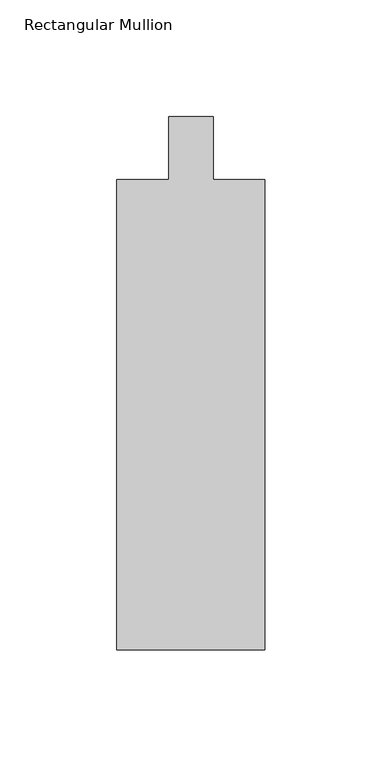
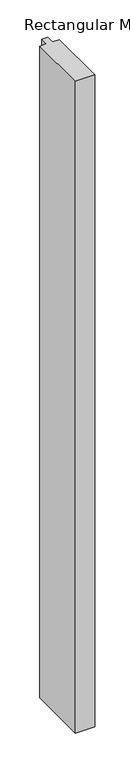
"""IFC4 building model written with IfcOpenShell, lengths in millimetres: member geometry."""

import ifcopenshell
import ifcopenshell.guid

model = None  # the IFC model being written
_history = None  # IfcOwnerHistory: only IFC2X3 demands one
_inside = {}  # id of a spatial element -> (the spatial element, [elements in it])
_under = {}  # id of a project, library or spatial element -> (it, [spatial elements below it])
_declared = {}  # id of a project -> (the project, [libraries it declares])
_typed = {}  # id of a type object -> (the type object, [elements of that type])
_made_of = {}  # id of a material, layer set ... -> (it, [elements and type objects made of it])


def new_model(schema):
    """Start an empty IFC model of exactly this schema.

    Asked for "IFC4X3", IfcOpenShell would pick the latest addendum, in which some entities
    have other attributes; the version numbers below select the first issue.
    IFC2X3 requires an IfcOwnerHistory on every rooted entity: one is made here for all.
    """
    global model, _history
    if schema == "IFC4X3":
        model = ifcopenshell.file(schema_version=(4, 3, 0, 0))
    else:
        model = ifcopenshell.file(schema=schema)
    _inside.clear()
    _under.clear()
    _declared.clear()
    _typed.clear()
    _made_of.clear()
    _history = None
    if model.schema == "IFC2X3":
        org = make("IfcOrganization", Name="unknown")
        user = make(
            "IfcPersonAndOrganization",
            ThePerson=make("IfcPerson", FamilyName="unknown"),
            TheOrganization=org,
        )
        app = make(
            "IfcApplication",
            ApplicationDeveloper=org,
            Version="unknown",
            ApplicationFullName="unknown",
            ApplicationIdentifier="unknown",
        )
        _history = make(
            "IfcOwnerHistory",
            OwningUser=user,
            OwningApplication=app,
            ChangeAction="ADDED",
            CreationDate=0,
        )
    return model


def make(cls, **values):
    """One entity of the class cls with the attributes given. An attribute that is None is left unset."""
    return model.create_entity(
        cls, **{name: value for name, value in values.items() if value is not None}
    )


def rooted(cls, **values):
    """An entity with a GlobalId (a new one), such as an element, a storey or a relation."""
    return make(cls, GlobalId=ifcopenshell.guid.new(), OwnerHistory=_history, **values)


def si_unit(unit_type, name, prefix=None):
    """IfcSIUnit, for example si_unit("LENGTHUNIT", "METRE", prefix="MILLI")."""
    return make("IfcSIUnit", UnitType=unit_type, Prefix=prefix, Name=name)


def assignment(units):
    """IfcUnitAssignment: the units of a project."""
    return None if units is None else make("IfcUnitAssignment", Units=units)


def point(xyz):
    """IfcCartesianPoint."""
    return None if xyz is None else make("IfcCartesianPoint", Coordinates=xyz)


def direction(xyz):
    """IfcDirection."""
    return None if xyz is None else make("IfcDirection", DirectionRatios=xyz)


def frame(location, z_axis=None, x_axis=None):
    """IfcAxis2Placement3D, a coordinate frame: its origin and axes. An axis left out is left unset."""
    return make(
        "IfcAxis2Placement3D",
        Location=point(location),
        Axis=direction(z_axis),
        RefDirection=direction(x_axis),
    )


def origin():
    """The frame at (0, 0, 0) with its axes left unset."""
    return frame((0.0, 0.0, 0.0))


def place(relative_to, where):
    """IfcLocalPlacement: puts the frame where relative to a parent placement (None: the world)."""
    return make(
        "IfcLocalPlacement", PlacementRelTo=relative_to, RelativePlacement=where
    )


def context(
    kind, dimensions, precision=None, world=None, true_north=None, identifier=None
):
    """IfcGeometricRepresentationContext, for example the 3D "Model" context."""
    return make(
        "IfcGeometricRepresentationContext",
        ContextIdentifier=identifier,
        ContextType=kind,
        CoordinateSpaceDimension=dimensions,
        Precision=precision,
        WorldCoordinateSystem=world,
        TrueNorth=true_north,
    )


def project(units=None, contexts=None):
    """IfcProject with its units and contexts."""
    return rooted(
        "IfcProject",
        Name="project",
        RepresentationContexts=contexts,
        UnitsInContext=assignment(units),
    )


def spatial(cls, under=None, at=None, **own):
    """A site, building, storey or space (cls), placed at a placement, below another one or the project."""
    s = rooted(cls, ObjectPlacement=at, **own)
    if under is not None:
        _under.setdefault(under.id(), (under, []))[1].append(s)
    return s


def polyline(points):
    """IfcPolyline through the points."""
    return make("IfcPolyline", Points=[point(p) for p in points])


def outline(outer, holes=None, kind="AREA"):
    """IfcArbitraryClosedProfileDef: a profile drawn as a closed curve; with holes, ...WithVoids."""
    if holes is None:
        return make("IfcArbitraryClosedProfileDef", ProfileType=kind, OuterCurve=outer)
    return make(
        "IfcArbitraryProfileDefWithVoids",
        ProfileType=kind,
        OuterCurve=outer,
        InnerCurves=holes,
    )


def extrude(swept, where, along, depth):
    """IfcExtrudedAreaSolid: the profile swept, set in the frame where, extruded along a direction by depth."""
    return make(
        "IfcExtrudedAreaSolid",
        SweptArea=swept,
        Position=where,
        ExtrudedDirection=direction(along),
        Depth=depth,
    )


def shape(context_of_items, identifier, shape_type, items):
    """IfcShapeRepresentation: the items that make up one representation, for example the "Body"."""
    return make(
        "IfcShapeRepresentation",
        ContextOfItems=context_of_items,
        RepresentationIdentifier=identifier,
        RepresentationType=shape_type,
        Items=items,
    )


def source(mapping_origin, context_of_items, identifier, shape_type, items):
    """IfcRepresentationMap: a shape defined once, which mapped items show again and again."""
    return make(
        "IfcRepresentationMap",
        MappingOrigin=mapping_origin,
        MappedRepresentation=shape(context_of_items, identifier, shape_type, items),
    )


def transform(
    local_origin,
    x_axis=None,
    y_axis=None,
    z_axis=None,
    scale=None,
    scale2=None,
    scale3=None,
    uniform=True,
):
    """IfcCartesianTransformationOperator3D, or its non-uniform kind. x_axis, y_axis, z_axis: its Axis1, 2, 3."""
    if uniform:
        return make(
            "IfcCartesianTransformationOperator3D",
            Axis1=direction(x_axis),
            Axis2=direction(y_axis),
            LocalOrigin=point(local_origin),
            Scale=scale,
            Axis3=direction(z_axis),
        )
    return make(
        "IfcCartesianTransformationOperator3DnonUniform",
        Axis1=direction(x_axis),
        Axis2=direction(y_axis),
        LocalOrigin=point(local_origin),
        Scale=scale,
        Axis3=direction(z_axis),
        Scale2=scale2,
        Scale3=scale3,
    )


def mapped(mapping_source, mapping_target):
    """IfcMappedItem: shows the shape of a source again, moved by a transform."""
    return make(
        "IfcMappedItem", MappingSource=mapping_source, MappingTarget=mapping_target
    )


def made_of(thing, what):
    """Note that an element or type object is made of a material, layer set ...; save() writes the relation."""
    if what is not None:
        _made_of.setdefault(what.id(), (what, []))[1].append(thing)
    return thing


def element(
    cls,
    number,
    at=None,
    inside=None,
    cuts=None,
    type_object=None,
    material=None,
    context=None,
    identifier="Body",
    shape_type=None,
    held_by="IfcProductDefinitionShape",
    body=None,
    shapes=None,
    **own,
):
    """One element of the class cls, such as IfcWall. Its Tag is "e" and its number.

    at: its placement. inside: the storey or other place that contains it. cuts: it is an
    opening in that element (IfcRelVoidsElement). A single representation is given by context,
    identifier, shape_type and body (its items); several are given by shapes. held_by: the class
    of the entity that holds the representations. save() writes the other relations.
    """
    e = rooted(cls, Tag="e%d" % number, ObjectPlacement=at, **own)
    if body is not None:
        shapes = [shape(context, identifier, shape_type, body)]
    if shapes is not None:
        e.Representation = make(held_by, Representations=shapes)
    if inside is not None:
        _inside.setdefault(inside.id(), (inside, []))[1].append(e)
    if cuts is not None:
        rooted(
            "IfcRelVoidsElement", RelatingBuildingElement=cuts, RelatedOpeningElement=e
        )
    if type_object is not None:
        _typed.setdefault(type_object.id(), (type_object, []))[1].append(e)
    return made_of(e, material)


def aggregate(whole, parts):
    """IfcRelAggregates: a whole, such as a stair, and the parts it consists of."""
    return rooted("IfcRelAggregates", RelatingObject=whole, RelatedObjects=parts)


def save(model, path):
    """Write the relations noted so far, then the file.

    IfcRelAggregates (storeys below a building ...), IfcRelContainedInSpatialStructure (elements
    in a storey), IfcRelDefinesByType, IfcRelAssociatesMaterial and IfcRelDeclares: one each for
    every whole, place, type object, material and project.
    """
    for whole, parts in _under.values():
        aggregate(whole, parts)
    for where, things in _inside.values():
        rooted(
            "IfcRelContainedInSpatialStructure",
            RelatedElements=things,
            RelatingStructure=where,
        )
    for kind, things in _typed.values():
        rooted("IfcRelDefinesByType", RelatedObjects=things, RelatingType=kind)
    for what, things in _made_of.values():
        rooted("IfcRelAssociatesMaterial", RelatedObjects=things, RelatingMaterial=what)
    for by, libraries in _declared.values():
        rooted("IfcRelDeclares", RelatingContext=by, RelatedDefinitions=libraries)
    model.write(path)


def rectangular_mullion_82fb6bf8(model_context):
    return source(origin(), model_context, "Body", "SweptSolid", [
        extrude(outline(polyline([(-63.5, -228.6), (-63.5, -26.9875), (-41.275, -26.9875), (-41.275, 0.0), (-22.225, 0.0), (-22.225, -26.9875), (0.0, -26.9875), (0.0, -228.6), (-63.5, -228.6)])), frame((0.0, 0.0, -2256.1983561), z_axis=(0.0, 0.0, 1.0), x_axis=(1.0, 0.0, 0.0)), (0.0, 0.0, 1.0), 2256.1983561),
    ])


if __name__ == "__main__":
    model = new_model("IFC4")
    model_context = context("Model", 3, world=origin())
    ifc_project = project(units=[si_unit("LENGTHUNIT", "METRE", prefix="MILLI")], contexts=[model_context])
    site = spatial("IfcSite", under=ifc_project)
    building = spatial("IfcBuilding", under=site)
    placement = place(None, origin())
    rectangular_mullion_shape = rectangular_mullion_82fb6bf8(model_context)
    element("IfcMember", 1, ObjectType="Rectangular Mullion : 2 1/2\" x 8\" - Capless", at=placement, inside=building, context=model_context, shape_type="MappedRepresentation", body=[
        mapped(rectangular_mullion_shape, transform((0.0, 0.0, 0.0), x_axis=(1.0, 0.0, 0.0), y_axis=(0.0, 1.0, 0.0), z_axis=(0.0, 0.0, 1.0))),
    ])
    save(model, "model.ifc")
